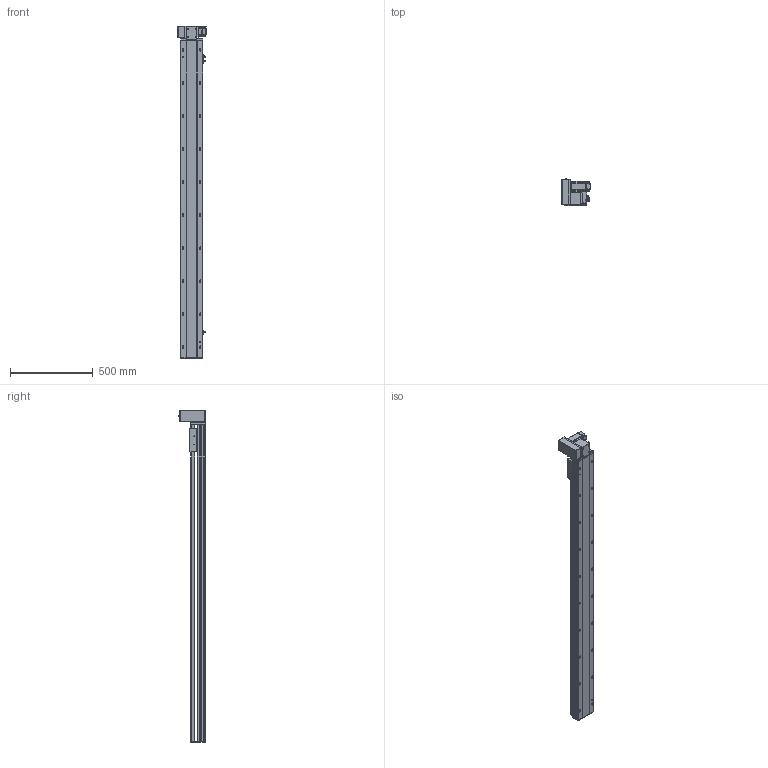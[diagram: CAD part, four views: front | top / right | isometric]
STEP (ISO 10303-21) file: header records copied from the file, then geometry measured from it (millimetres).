
FILE_DESCRIPTION (( 'STEP AP214' ), '1' );
FILE_NAME ('TPT14M-L40-1650-LU-T40-C4.STEP', '2023-03-06T01:17:10', ( '' ), ( '' ), 'SwSTEP 2.0', 'SolidWorks 2020', '' );
FILE_SCHEMA (( 'AUTOMOTIVE_DESIGN' ));
Length unit declared in the file: millimetre
Products named in the file (9): 葩璃 侂狟400W^TPT14M-L40-LU-T40-C4; 葩璃 TPT14-L-007 々湍釱MZ-169x88^TPT14M-L40-LU-T40-C4_YTB14M; 葩璃 TPT14-L-009 萇儂啣^TPT14M-L40-LU-T40-C4_400W; hexagon head bolts-full thread gb_GB_FASTENER_BOLT_STBAB A M5X16-N; 葩璃 TPT14-L-002 奻裔MZ-135-05^TPT14M-L40-LU-T40-C4; 葩璃 pm-t65-672^TPT14M-L40-LU-T40-C4; TPT14M-L40-1650-LU-T40-C4; 葩璃 TPT14-L-005 賑釱MZ-135-07^TPT14M-L40-LU-T40-C4; 葩璃 TPT14-L-001 菁釱MZ-135-01^TPT14M-L40-LU-T40-C4
Assembly tree (10 placements, depth 2):
  TPT14M-L40-1650-LU-T40-C4
    葩璃 TPT14-L-001 菁釱MZ-135-01^TPT14M-L40-LU-T40-C4
    葩璃 TPT14-L-002 奻裔MZ-135-05^TPT14M-L40-LU-T40-C4
    葩璃 TPT14-L-005 賑釱MZ-135-07^TPT14M-L40-LU-T40-C4
    葩璃 TPT14-L-007 々湍釱MZ-169x88^TPT14M-L40-LU-T40-C4_YTB14M
    葩璃 TPT14-L-009 萇儂啣^TPT14M-L40-LU-T40-C4_400W
    葩璃 pm-t65-672^TPT14M-L40-LU-T40-C4  x3
    葩璃 侂狟400W^TPT14M-L40-LU-T40-C4
    hexagon head bolts-full thread gb_GB_FASTENER_BOLT_STBAB A M5X16-N
Bounding box: 170.5 x 160.85 x 2010.5 mm (x, y, z)
Volume: 12401951.4 mm3; surface area: 1804418.2 mm2
Topology: 18 solids, 18 shells, 1494 faces, 3905 edges, 2488 vertices
Faces by surface type: plane 774, cylinder 540, cone 154, bspline 26
Entity records: 40820 total; most frequent: CARTESIAN_POINT 7502, DIRECTION 6764, ORIENTED_EDGE 6346, EDGE_CURVE 3173, AXIS2_PLACEMENT_3D 2406, VERTEX_POINT 2064, VECTOR 1952, LINE 1952
